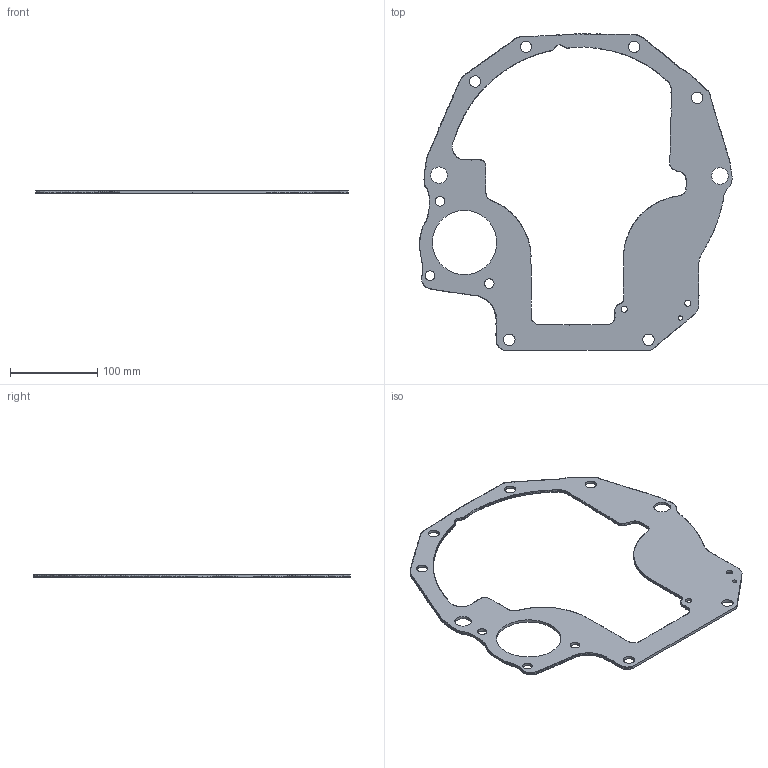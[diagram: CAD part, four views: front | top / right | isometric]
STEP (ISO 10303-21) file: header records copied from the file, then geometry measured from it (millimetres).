
FILE_DESCRIPTION(/* description */ (''),/* implementation_level */ '2;1');
FILE_NAME(/* name */ 'C:/Users/ewicklund/Google Drive/Documents/1999 Miata/CAD/Transmission Adapter/tranny plate_EAW 01 v2.step',/* time_stamp */ '2019-03-21T07:32:09-05:00',/* author */ ('ewicklund91'),/* organization */ (''),/* preprocessor_version */ 'ST-DEVELOPER v17.2',/* originating_system */ 'Autodesk Translation Framework v7.6.0.251',/* authorisation */ '');
FILE_SCHEMA (('AUTOMOTIVE_DESIGN { 1 0 10303 214 3 1 1 }'));
Products named in the file (1): tranny plate_EAW 01
Bounding box: 358.77 x 363.61 x 3.17 mm (x, y, z)
Volume: 142536.8 mm3; surface area: 99477 mm2
Topology: 1 solids, 1 shells, 1592 faces, 4770 edges, 3180 vertices
Faces by surface type: bspline 1569, cylinder 15, plane 8
Full cylindrical faces by diameter (mm): 4.826 x1, 7.061 x2, 11.049 x3, 13.081 x6, 19.05 x2, 73.914 x1
Entity records: 57434 total; most frequent: CARTESIAN_POINT 29164, ORIENTED_EDGE 9540, EDGE_CURVE 4770, VERTEX_POINT 3180, DIRECTION 2150, EDGE_LOOP 1624, LINE 1602, VECTOR 1602
